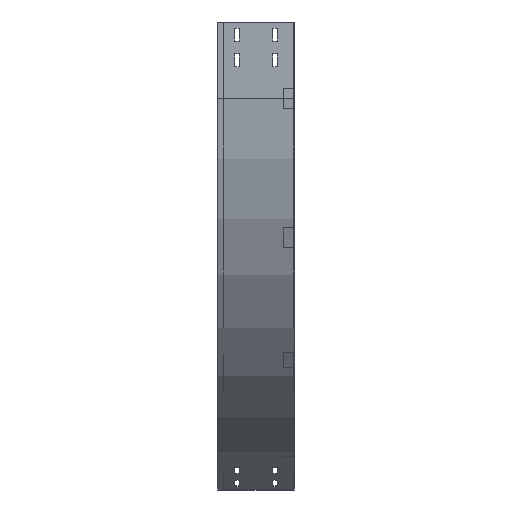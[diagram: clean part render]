
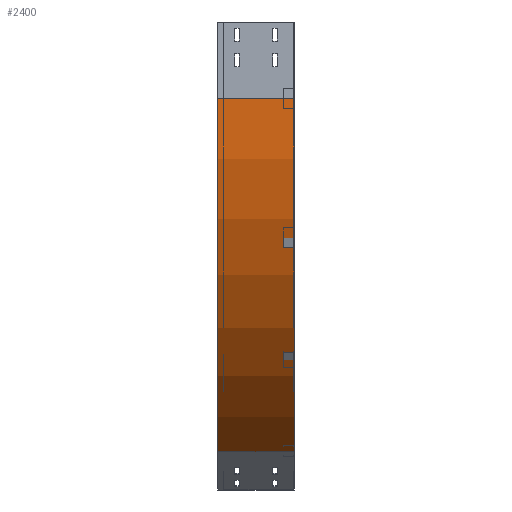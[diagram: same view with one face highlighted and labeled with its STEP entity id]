
A CAD part, left-side view. The second image highlights one B-rep face of the part: STEP entity #2400.
In plain terms, the highlighted cylindrical face has radius 800 mm (diameter 1600 mm), a partial arc.
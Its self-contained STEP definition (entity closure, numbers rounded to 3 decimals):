
#86 = DIRECTION ( 'NONE',  ( 0., -1., 0. ) ) ;
#111 = DIRECTION ( 'NONE',  ( -1., 0., 0. ) ) ;
#117 = DIRECTION ( 'NONE',  ( -1., 0., 0. ) ) ;
#191 = EDGE_CURVE ( 'NONE', #3816, #1375, #1935, .T. ) ;
#289 = CIRCLE ( 'NONE', #3419, 800. ) ;
#305 = ORIENTED_EDGE ( 'NONE', *, *, #2124, .F. ) ;
#348 = AXIS2_PLACEMENT_3D ( 'NONE', #2126, #1429, #503 ) ;
#403 = CARTESIAN_POINT ( 'NONE',  ( 0., 150., -150. ) ) ;
#409 = VERTEX_POINT ( 'NONE', #3310 ) ;
#503 = DIRECTION ( 'NONE',  ( 0., 0., -1. ) ) ;
#506 = EDGE_CURVE ( 'NONE', #2699, #409, #2152, .T. ) ;
#613 = FACE_OUTER_BOUND ( 'NONE', #3066, .T. ) ;
#771 = DIRECTION ( 'NONE',  ( 0., -1., 0. ) ) ;
#1122 = AXIS2_PLACEMENT_3D ( 'NONE', #3689, #2511, #117 ) ;
#1143 = ORIENTED_EDGE ( 'NONE', *, *, #191, .F. ) ;
#1247 = CARTESIAN_POINT ( 'NONE',  ( 400., 0., -842.82 ) ) ;
#1375 = VERTEX_POINT ( 'NONE', #1876 ) ;
#1429 = DIRECTION ( 'NONE',  ( 0., -1., 0. ) ) ;
#1596 = CARTESIAN_POINT ( 'NONE',  ( 800., 0., -150. ) ) ;
#1618 = CIRCLE ( 'NONE', #1122, 800. ) ;
#1850 = DIRECTION ( 'NONE',  ( 0., -1., 0. ) ) ;
#1865 = CARTESIAN_POINT ( 'NONE',  ( 400., 150., -842.82 ) ) ;
#1876 = CARTESIAN_POINT ( 'NONE',  ( 0., 0., -150. ) ) ;
#1935 = LINE ( 'NONE', #2819, #2538 ) ;
#2010 = ORIENTED_EDGE ( 'NONE', *, *, #3480, .T. ) ;
#2124 = EDGE_CURVE ( 'NONE', #1375, #409, #289, .T. ) ;
#2126 = CARTESIAN_POINT ( 'NONE',  ( 800., 0., -150. ) ) ;
#2152 = LINE ( 'NONE', #1247, #2615 ) ;
#2400 = ADVANCED_FACE ( 'NONE', ( #613 ), #3583, .T. ) ;
#2511 = DIRECTION ( 'NONE',  ( 0., -1., 0. ) ) ;
#2538 = VECTOR ( 'NONE', #771, 1000. ) ;
#2615 = VECTOR ( 'NONE', #86, 1000. ) ;
#2699 = VERTEX_POINT ( 'NONE', #1865 ) ;
#2819 = CARTESIAN_POINT ( 'NONE',  ( 0., 0., -150. ) ) ;
#2981 = ORIENTED_EDGE ( 'NONE', *, *, #506, .T. ) ;
#3066 = EDGE_LOOP ( 'NONE', ( #305, #1143, #2010, #2981 ) ) ;
#3310 = CARTESIAN_POINT ( 'NONE',  ( 400., 0., -842.82 ) ) ;
#3419 = AXIS2_PLACEMENT_3D ( 'NONE', #1596, #1850, #111 ) ;
#3480 = EDGE_CURVE ( 'NONE', #3816, #2699, #1618, .T. ) ;
#3583 = CYLINDRICAL_SURFACE ( 'NONE', #348, 800. ) ;
#3689 = CARTESIAN_POINT ( 'NONE',  ( 800., 150., -150. ) ) ;
#3816 = VERTEX_POINT ( 'NONE', #403 ) ;
